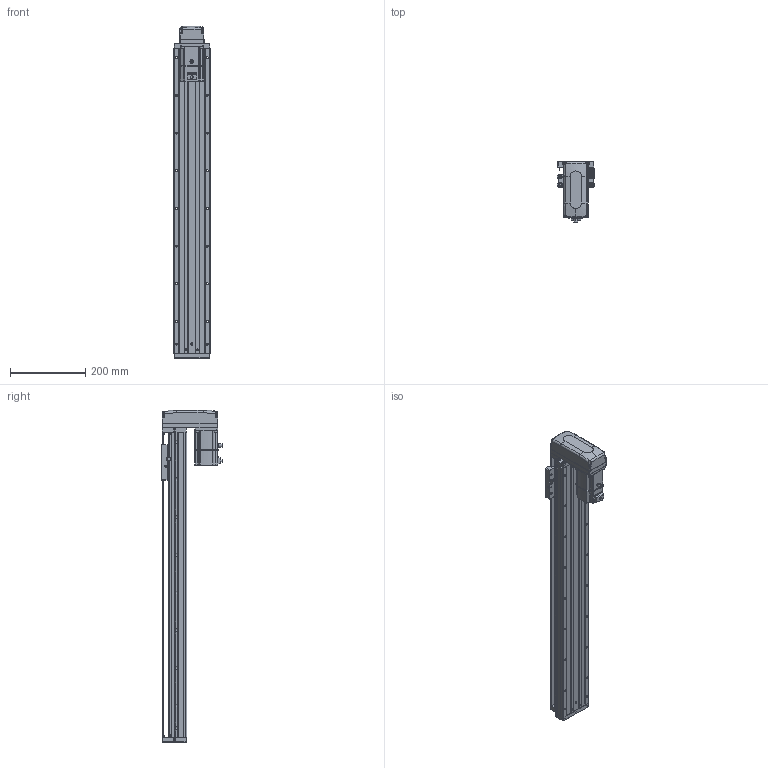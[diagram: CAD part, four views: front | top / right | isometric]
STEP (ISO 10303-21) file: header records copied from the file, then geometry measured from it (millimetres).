
FILE_DESCRIPTION (( 'STEP AP203' ), '1' );
FILE_NAME ('KTHA100-650-BM-M20-C4L.step', '2022-04-26T01:53:58', ( '微软用户' ), ( '微软中国' ), 'SwSTEP 2.0', 'SolidWorks 2020', '' );
FILE_SCHEMA (( 'CONFIG_CONTROL_DESIGN' ));
Length unit declared in the file: millimetre
Products named in the file (17): KTHA100-005; GBT70.1 M5℅16; GB¨uT 70.2-M3¡Á5_M3¡Á6; CTHA60-016; EE_SX911P_R; GBT 70.3-M3℅6; CTHA60-017; _X2_4E0983F1_X0_200W_1; KTHA100-001_810; CTHA60-021; CTHA86-015-1_CTHA86-015-2; KTHA100-002; GBT77-2000 M3×3; CTHA86-033; KTHA100-004; GBT 70.1-M3℅6; KTHA100-650-BM-M20-C4L
Assembly tree (57 placements, depth 2):
  KTHA100-650-BM-M20-C4L
    KTHA100-001_810
    KTHA100-002
    KTHA100-004
    KTHA100-005
    GB¨uT 70.2-M3¡Á5_M3¡Á6  x6
    EE_SX911P_R  x3
    CTHA60-017  x3
    CTHA60-021  x2
    GBT77-2000 M3×3  x6
    GBT 70.1-M3℅6  x10
    GBT70.1 M5℅16  x14
    CTHA60-016  x2
    GBT 70.3-M3℅6  x4
    _X2_4E0983F1_X0_200W_1
    CTHA86-015-1_CTHA86-015-2
    CTHA86-033
Bounding box: 98.82 x 163.2 x 881 mm (x, y, z)
Volume: 3870771.3 mm3; surface area: 631892.2 mm2
Topology: 60 solids, 60 shells, 2457 faces, 5889 edges, 3652 vertices
Faces by surface type: plane 1256, cylinder 683, cone 311, torus 116, bspline 75, sphere 16
Entity records: 42594 total; most frequent: CARTESIAN_POINT 8560, DIRECTION 6602, ORIENTED_EDGE 6390, EDGE_CURVE 3195, AXIS2_PLACEMENT_3D 2302, VERTEX_POINT 2012, VECTOR 1998, LINE 1998
